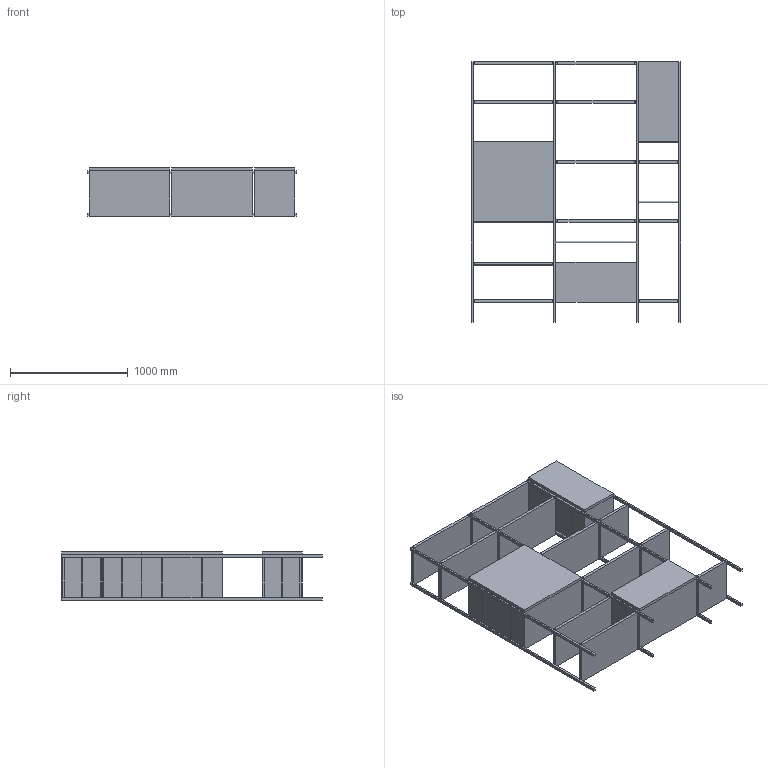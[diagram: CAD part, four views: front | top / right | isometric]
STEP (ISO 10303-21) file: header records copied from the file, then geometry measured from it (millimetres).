
FILE_DESCRIPTION(/* description */ (''),/* implementation_level */ '2;1');
FILE_NAME(/* name */ 'C:\Users\Dario\Desktop\acerbis 25-05\outline C.step',/* time_stamp */ '2016-05-25T12:39:03+02:00',/* author */ ('Dario'),/* organization */ (''),/* preprocessor_version */ 'ST-DEVELOPER v15.6',/* originating_system */ 'Autodesk Inventor 2015',/* authorisation */ '');
FILE_SCHEMA (('AUTOMOTIVE_DESIGN { 1 0 10303 214 3 1 1 }'));
Length unit declared in the file: millimetre
Products named in the file (23): montante-15x25; montante-15x25_MIR; montante-15x25_MIR1; controventatura 385; controventatura 385_MIR15; mensola 680x385; mensola 340x385; controventatura 385_MIR18; controventatura 385_MIR26; reggilibro 346; controventatura 385_MIR37; controventatura 385_MIR39; modulo 68x34; controventatura 385_MIR41; anta 34x68; controventatura 385_MIR42; modulo 68x68; anta 68x68; controventatura 385_MIR43; modulo 68x34-vert; controventatura 385_MIR44; reggilibro 686; mod 1077
Bounding box: 1778 x 2210 x 410.08 mm (x, y, z)
Volume: 174039845 mm3; surface area: 16541427.5 mm2
Topology: 59 solids, 59 shells, 331 faces, 630 edges, 420 vertices
Faces by surface type: plane 265, cylinder 66
Full cylindrical faces by diameter (mm): 15 x34
Entity records: 4297 total; most frequent: DIRECTION 758, CARTESIAN_POINT 669, ORIENTED_EDGE 528, AXIS2_PLACEMENT_3D 273, EDGE_CURVE 264, LINE 212, VECTOR 212, VERTEX_POINT 184
